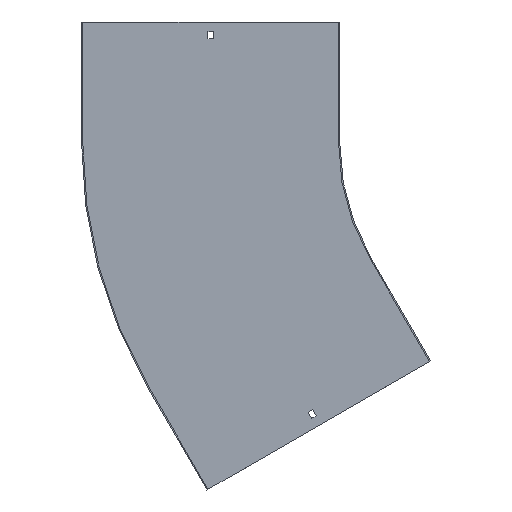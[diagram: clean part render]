
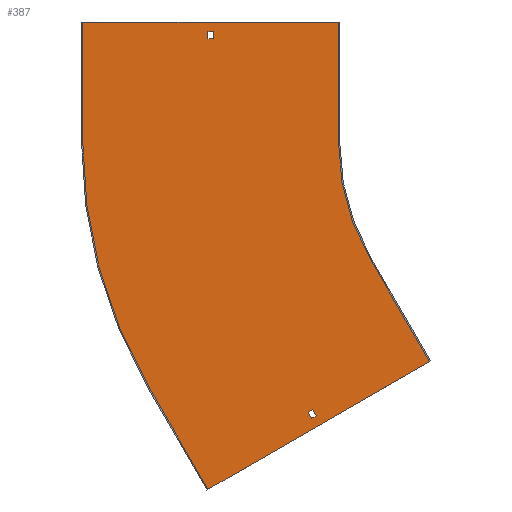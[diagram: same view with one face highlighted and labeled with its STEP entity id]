
A CAD part, front view. The second image highlights one B-rep face of the part: STEP entity #387.
In plain terms, the highlighted planar face has unit normal (0, -1, 0).
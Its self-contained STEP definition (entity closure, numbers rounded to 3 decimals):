
#1 = FACE_BOUND ( 'NONE', #297, .T. ) ;
#5 = CARTESIAN_POINT ( 'NONE',  ( 0., -1.5, 0. ) ) ;
#7 = CARTESIAN_POINT ( 'NONE',  ( -610., -1.5, 0. ) ) ;
#17 = LINE ( 'NONE', #817, #759 ) ;
#20 = VERTEX_POINT ( 'NONE', #478 ) ;
#21 = LINE ( 'NONE', #672, #333 ) ;
#52 = CARTESIAN_POINT ( 'NONE',  ( -290., -1.5, 150. ) ) ;
#53 = LINE ( 'NONE', #125, #348 ) ;
#55 = ORIENTED_EDGE ( 'NONE', *, *, #403, .T. ) ;
#66 = FACE_OUTER_BOUND ( 'NONE', #834, .T. ) ;
#69 = EDGE_CURVE ( 'NONE', #20, #466, #347, .T. ) ;
#70 = DIRECTION ( 'NONE',  ( 0., 0., -1. ) ) ;
#73 = VECTOR ( 'NONE', #253, 1000. ) ;
#82 = EDGE_CURVE ( 'NONE', #227, #612, #724, .T. ) ;
#83 = ORIENTED_EDGE ( 'NONE', *, *, #306, .F. ) ;
#88 = AXIS2_PLACEMENT_3D ( 'NONE', #416, #421, #279 ) ;
#117 = VECTOR ( 'NONE', #407, 1000. ) ;
#120 = DIRECTION ( 'NONE',  ( 0.5, 0., -0.866 ) ) ;
#125 = CARTESIAN_POINT ( 'NONE',  ( 0., -1.5, 129. ) ) ;
#159 = DIRECTION ( 'NONE',  ( 0.5, 0., -0.866 ) ) ;
#168 = LINE ( 'NONE', #769, #715 ) ;
#184 = EDGE_CURVE ( 'NONE', #508, #483, #694, .T. ) ;
#187 = CARTESIAN_POINT ( 'NONE',  ( 64.5, -1.5, -111.717 ) ) ;
#189 = VERTEX_POINT ( 'NONE', #809 ) ;
#203 = FACE_BOUND ( 'NONE', #846, .T. ) ;
#208 = DIRECTION ( 'NONE',  ( -1., 0., 0. ) ) ;
#216 = VECTOR ( 'NONE', #398, 1000. ) ;
#222 = CARTESIAN_POINT ( 'NONE',  ( -446.75, -1.5, 138. ) ) ;
#227 = VERTEX_POINT ( 'NONE', #222 ) ;
#230 = VECTOR ( 'NONE', #778, 1000. ) ;
#245 = VECTOR ( 'NONE', #479, 1000. ) ;
#253 = DIRECTION ( 'NONE',  ( 0., 0., -1. ) ) ;
#268 = LINE ( 'NONE', #860, #117 ) ;
#272 = CARTESIAN_POINT ( 'NONE',  ( -446.75, -1.5, 0. ) ) ;
#274 = VECTOR ( 'NONE', #621, 1000. ) ;
#276 = LINE ( 'NONE', #654, #459 ) ;
#278 = EDGE_CURVE ( 'NONE', #434, #847, #458, .T. ) ;
#279 = DIRECTION ( 'NONE',  ( 0., 0., -1. ) ) ;
#289 = VECTOR ( 'NONE', #572, 1000. ) ;
#297 = EDGE_LOOP ( 'NONE', ( #810, #792, #518, #321 ) ) ;
#298 = CARTESIAN_POINT ( 'NONE',  ( -446.75, -1.5, 129. ) ) ;
#306 = EDGE_CURVE ( 'NONE', #840, #395, #372, .T. ) ;
#307 = CARTESIAN_POINT ( 'NONE',  ( -251.147, -1.5, -145. ) ) ;
#317 = CARTESIAN_POINT ( 'NONE',  ( -323.526, -1.5, -346.137 ) ) ;
#321 = ORIENTED_EDGE ( 'NONE', *, *, #278, .F. ) ;
#326 = CARTESIAN_POINT ( 'NONE',  ( -176.147, -1.5, -274.904 ) ) ;
#333 = VECTOR ( 'NONE', #477, 1000. ) ;
#334 = EDGE_CURVE ( 'NONE', #858, #189, #168, .T. ) ;
#347 = CIRCLE ( 'NONE', #758, 610. ) ;
#348 = VECTOR ( 'NONE', #208, 1000. ) ;
#354 = EDGE_CURVE ( 'NONE', #466, #531, #385, .T. ) ;
#366 = VERTEX_POINT ( 'NONE', #317 ) ;
#372 = LINE ( 'NONE', #568, #73 ) ;
#385 = LINE ( 'NONE', #642, #289 ) ;
#387 = ADVANCED_FACE ( 'NONE', ( #1, #66, #203 ), #803, .T. ) ;
#395 = VERTEX_POINT ( 'NONE', #734 ) ;
#398 = DIRECTION ( 'NONE',  ( 0.866, 0., 0.5 ) ) ;
#403 = EDGE_CURVE ( 'NONE', #612, #508, #53, .T. ) ;
#407 = DIRECTION ( 'NONE',  ( 1., 0., 0. ) ) ;
#410 = CARTESIAN_POINT ( 'NONE',  ( -328.026, -1.5, -338.342 ) ) ;
#411 = CARTESIAN_POINT ( 'NONE',  ( 0., -1.5, 0. ) ) ;
#416 = CARTESIAN_POINT ( 'NONE',  ( 0., -1.5, 0. ) ) ;
#421 = DIRECTION ( 'NONE',  ( 0., -1., 0. ) ) ;
#428 = CARTESIAN_POINT ( 'NONE',  ( -611.5, -1.5, 150. ) ) ;
#434 = VERTEX_POINT ( 'NONE', #536 ) ;
#437 = CARTESIAN_POINT ( 'NONE',  ( -453.25, -1.5, 0. ) ) ;
#440 = DIRECTION ( 'NONE',  ( -0.866, 0., -0.5 ) ) ;
#458 = LINE ( 'NONE', #187, #230 ) ;
#459 = VECTOR ( 'NONE', #727, 1000. ) ;
#464 = DIRECTION ( 'NONE',  ( 0., -1., 0. ) ) ;
#465 = DIRECTION ( 'NONE',  ( 0., 0., -1. ) ) ;
#466 = VERTEX_POINT ( 'NONE', #7 ) ;
#467 = EDGE_CURVE ( 'NONE', #366, #751, #595, .T. ) ;
#472 = EDGE_CURVE ( 'NONE', #483, #227, #268, .T. ) ;
#476 = ORIENTED_EDGE ( 'NONE', *, *, #82, .T. ) ;
#477 = DIRECTION ( 'NONE',  ( -0.5, 0., 0.866 ) ) ;
#478 = CARTESIAN_POINT ( 'NONE',  ( -528.275, -1.5, -305. ) ) ;
#479 = DIRECTION ( 'NONE',  ( 1., 0., 0. ) ) ;
#481 = EDGE_CURVE ( 'NONE', #751, #434, #276, .T. ) ;
#483 = VERTEX_POINT ( 'NONE', #533 ) ;
#497 = VECTOR ( 'NONE', #729, 1000. ) ;
#508 = VERTEX_POINT ( 'NONE', #525 ) ;
#518 = ORIENTED_EDGE ( 'NONE', *, *, #561, .F. ) ;
#525 = CARTESIAN_POINT ( 'NONE',  ( -453.25, -1.5, 129. ) ) ;
#529 = CARTESIAN_POINT ( 'NONE',  ( 69., -1.5, -119.512 ) ) ;
#531 = VERTEX_POINT ( 'NONE', #752 ) ;
#533 = CARTESIAN_POINT ( 'NONE',  ( -453.25, -1.5, 138. ) ) ;
#536 = CARTESIAN_POINT ( 'NONE',  ( -322.397, -1.5, -335.092 ) ) ;
#537 = EDGE_CURVE ( 'NONE', #189, #20, #21, .T. ) ;
#546 = EDGE_CURVE ( 'NONE', #531, #840, #606, .T. ) ;
#561 = EDGE_CURVE ( 'NONE', #847, #366, #17, .T. ) ;
#568 = CARTESIAN_POINT ( 'NONE',  ( -290., -1.5, 150. ) ) ;
#572 = DIRECTION ( 'NONE',  ( 0., 0., 1. ) ) ;
#577 = ORIENTED_EDGE ( 'NONE', *, *, #546, .F. ) ;
#595 = LINE ( 'NONE', #529, #216 ) ;
#606 = LINE ( 'NONE', #428, #245 ) ;
#612 = VERTEX_POINT ( 'NONE', #298 ) ;
#621 = DIRECTION ( 'NONE',  ( 0., 0., 1. ) ) ;
#631 = ORIENTED_EDGE ( 'NONE', *, *, #472, .T. ) ;
#635 = EDGE_CURVE ( 'NONE', #395, #676, #786, .T. ) ;
#642 = CARTESIAN_POINT ( 'NONE',  ( -610., -1.5, 0. ) ) ;
#654 = CARTESIAN_POINT ( 'NONE',  ( -386.897, -1.5, -223.375 ) ) ;
#656 = ORIENTED_EDGE ( 'NONE', *, *, #354, .F. ) ;
#658 = DIRECTION ( 'NONE',  ( 0., 1., 0. ) ) ;
#659 = ORIENTED_EDGE ( 'NONE', *, *, #69, .F. ) ;
#660 = CARTESIAN_POINT ( 'NONE',  ( -251.147, -1.5, -145. ) ) ;
#672 = CARTESIAN_POINT ( 'NONE',  ( -453.275, -1.5, -434.904 ) ) ;
#676 = VERTEX_POINT ( 'NONE', #307 ) ;
#679 = ORIENTED_EDGE ( 'NONE', *, *, #830, .F. ) ;
#694 = LINE ( 'NONE', #437, #274 ) ;
#715 = VECTOR ( 'NONE', #440, 1000. ) ;
#724 = LINE ( 'NONE', #272, #497 ) ;
#726 = LINE ( 'NONE', #660, #746 ) ;
#727 = DIRECTION ( 'NONE',  ( -0.5, 0., 0.866 ) ) ;
#729 = DIRECTION ( 'NONE',  ( 0., 0., -1. ) ) ;
#734 = CARTESIAN_POINT ( 'NONE',  ( -290., -1.5, 0. ) ) ;
#746 = VECTOR ( 'NONE', #120, 1000. ) ;
#751 = VERTEX_POINT ( 'NONE', #762 ) ;
#752 = CARTESIAN_POINT ( 'NONE',  ( -610., -1.5, 150. ) ) ;
#758 = AXIS2_PLACEMENT_3D ( 'NONE', #5, #658, #465 ) ;
#759 = VECTOR ( 'NONE', #159, 1000. ) ;
#760 = ORIENTED_EDGE ( 'NONE', *, *, #537, .F. ) ;
#762 = CARTESIAN_POINT ( 'NONE',  ( -317.897, -1.5, -342.887 ) ) ;
#769 = CARTESIAN_POINT ( 'NONE',  ( -174.848, -1.5, -274.154 ) ) ;
#770 = ORIENTED_EDGE ( 'NONE', *, *, #184, .T. ) ;
#778 = DIRECTION ( 'NONE',  ( -0.866, 0., -0.5 ) ) ;
#786 = CIRCLE ( 'NONE', #88, 290. ) ;
#792 = ORIENTED_EDGE ( 'NONE', *, *, #467, .F. ) ;
#793 = ORIENTED_EDGE ( 'NONE', *, *, #334, .F. ) ;
#798 = ORIENTED_EDGE ( 'NONE', *, *, #635, .F. ) ;
#803 = PLANE ( 'NONE',  #856 ) ;
#809 = CARTESIAN_POINT ( 'NONE',  ( -453.275, -1.5, -434.904 ) ) ;
#810 = ORIENTED_EDGE ( 'NONE', *, *, #481, .F. ) ;
#817 = CARTESIAN_POINT ( 'NONE',  ( -392.526, -1.5, -226.625 ) ) ;
#830 = EDGE_CURVE ( 'NONE', #676, #858, #726, .T. ) ;
#834 = EDGE_LOOP ( 'NONE', ( #577, #656, #659, #760, #793, #679, #798, #83 ) ) ;
#840 = VERTEX_POINT ( 'NONE', #52 ) ;
#846 = EDGE_LOOP ( 'NONE', ( #631, #476, #55, #770 ) ) ;
#847 = VERTEX_POINT ( 'NONE', #410 ) ;
#856 = AXIS2_PLACEMENT_3D ( 'NONE', #411, #464, #70 ) ;
#858 = VERTEX_POINT ( 'NONE', #326 ) ;
#860 = CARTESIAN_POINT ( 'NONE',  ( 0., -1.5, 138. ) ) ;
